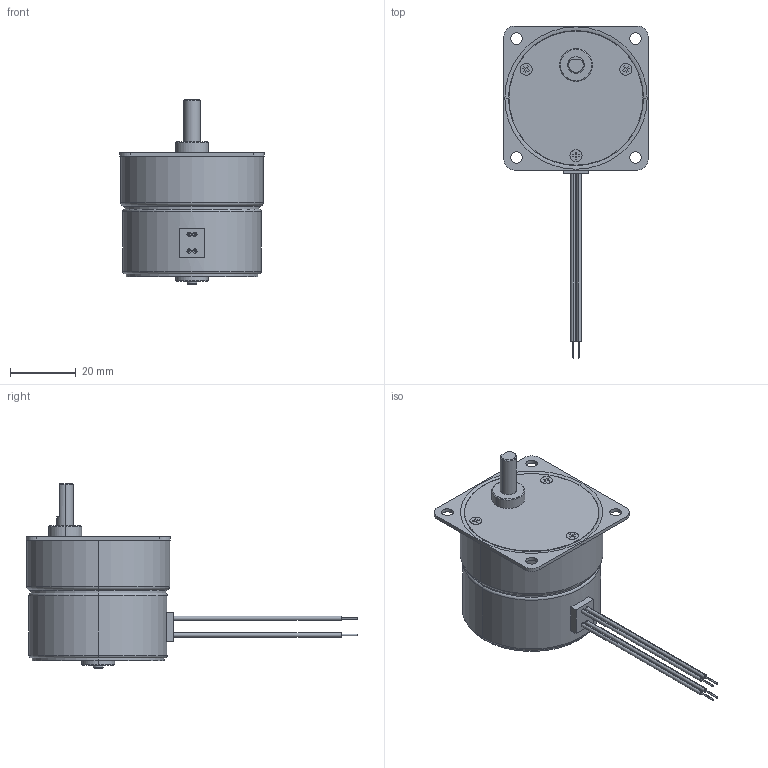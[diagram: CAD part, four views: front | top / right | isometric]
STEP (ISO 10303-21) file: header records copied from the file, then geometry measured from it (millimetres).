
FILE_DESCRIPTION (( 'STEP AP214' ), '1' );
FILE_NAME ('ACPMGM-42-40 Series.STEP', '2010-06-10T16:07:51', ( 'Tim Raines' ), ( 'Anaheim Automation' ), 'SwSTEP 2.0', 'SolidWorks 2010', '' );
FILE_SCHEMA (( 'AUTOMOTIVE_DESIGN' ));
Length unit declared in the file: inch
Products named in the file (1): ACPMGM-42-40 Series
Bounding box: 43.69 x 100.58 x 55.79 mm (x, y, z)
Volume: 54593.2 mm3; surface area: 10094.2 mm2
Topology: 1 solids, 1 shells, 141 faces, 329 edges, 214 vertices
Faces by surface type: plane 72, cylinder 52, cone 9, torus 8
Entity records: 5939 total; most frequent: DIRECTION 744, CARTESIAN_POINT 691, ORIENTED_EDGE 658, EDGE_CURVE 329, AXIS2_PLACEMENT_3D 275, VERTEX_POINT 214, LINE 194, VECTOR 194
